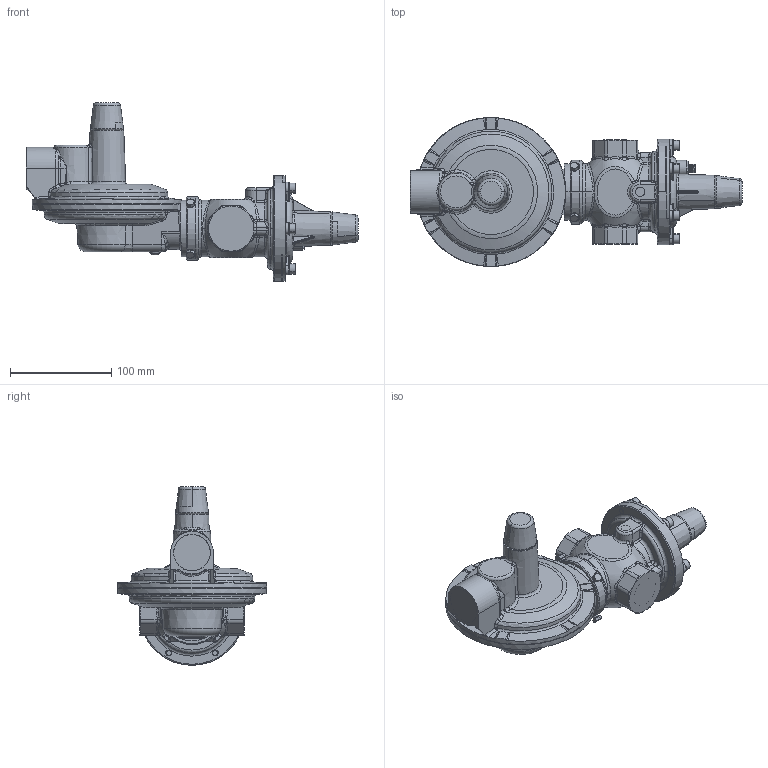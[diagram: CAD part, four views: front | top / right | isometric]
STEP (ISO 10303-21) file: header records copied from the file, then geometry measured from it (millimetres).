
FILE_DESCRIPTION((''),'2;1');
FILE_NAME('ASM0001_ASM_SW0001','2019-03-11T',('jjunior'),(''),'PRO/ENGINEER BY PARAMETRIC TECHNOLOGY CORPORATION, 2010160','PRO/ENGINEER BY PARAMETRIC TECHNOLOGY CORPORATION, 2010160','');
FILE_SCHEMA(('CONFIG_CONTROL_DESIGN'));
Products named in the file (1): ASM0001_ASM_SW0001
Bounding box: 327.16 x 147 x 176 mm (x, y, z)
Volume: 637642.9 mm3; surface area: 226015.6 mm2
Topology: 1 solids, 1 shells, 1936 faces, 5015 edges, 3104 vertices
Faces by surface type: plane 655, bspline 438, cylinder 413, torus 234, cone 171, sphere 25
Entity records: 82305 total; most frequent: CARTESIAN_POINT 39304, ORIENTED_EDGE 9920, DIRECTION 7709, EDGE_CURVE 4960, VERTEX_POINT 3104, AXIS2_PLACEMENT_3D 2926, EDGE_LOOP 2020, FACE_OUTER_BOUND 1936
